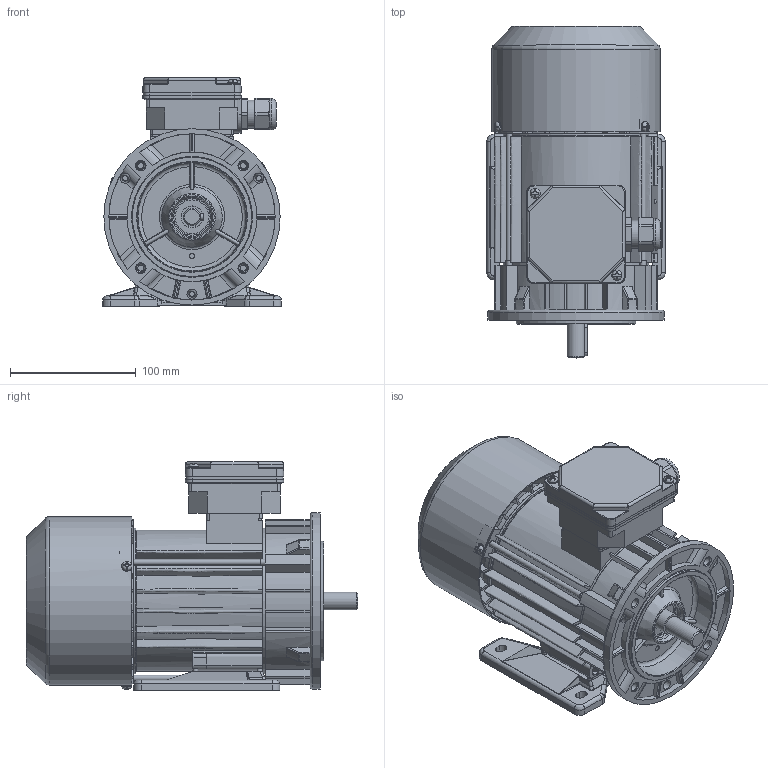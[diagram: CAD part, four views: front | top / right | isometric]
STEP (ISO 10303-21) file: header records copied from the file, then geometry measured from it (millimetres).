
FILE_DESCRIPTION(/* description */ ('Unknown'),/* implementation_level */ '2;1');
FILE_NAME(/* name */ '2SIEL71-6B1',/* time_stamp */ '2021-04-13T15:27:40+02:00',/* author */ ('Unknown'),/* organization */ ('Unknown'),/* preprocessor_version */ 'ST-DEVELOPER v16.7',/* originating_system */ 'Solid Edge',/* authorisation */ 'Unknown');
FILE_SCHEMA (('AUTOMOTIVE_DESIGN {1 0 10303 214 3 1 1}'));
Products named in the file (1): 2SIEL71-6B1
Bounding box: 141.93 x 263.49 x 181.5 mm (x, y, z)
Volume: 785942 mm3; surface area: 452926.3 mm2
Topology: 2 solids, 2 shells, 2626 faces, 7302 edges, 4672 vertices
Faces by surface type: plane 1089, cylinder 755, bspline 386, torus 201, cone 161, sphere 34
Full cylindrical faces by diameter (mm): 3.7 x4, 3.8 x4, 4 x3, 4.134 x3, 4.6 x3, 4.8 x2, 5 x5, 5.5 x3, 5.8 x4, 6.8 x4, 7 x1, 8 x9, 13.999 x1, 15.898 x1, 16.098 x1, 16.498 x1, 16.998 x2, 17.4 x2, 21.998 x2, 22.3 x1, 22.498 x1, 23.098 x1, 23.998 x1, 24.496 x4, 25 x1, 27 x1, 28 x1, 30 x1, 31 x1, 32.502 x4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
Entity records: 111615 total; most frequent: CARTESIAN_POINT 30321, ORIENTED_EDGE 13872, DIRECTION 12081, EDGE_CURVE 6936, VERTEX_POINT 4545, AXIS2_PLACEMENT_3D 4539, FACE_BOUND 3045, EDGE_LOOP 3041
